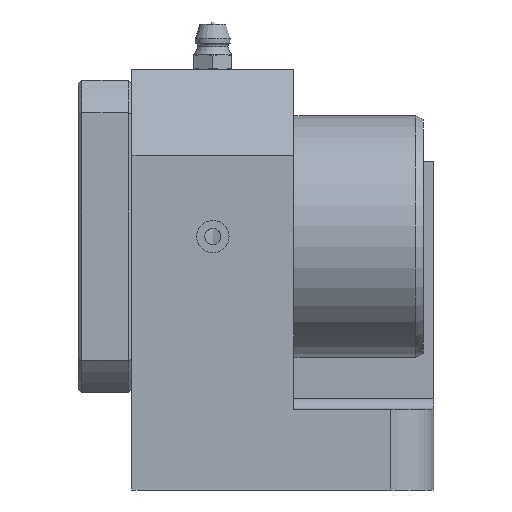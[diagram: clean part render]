
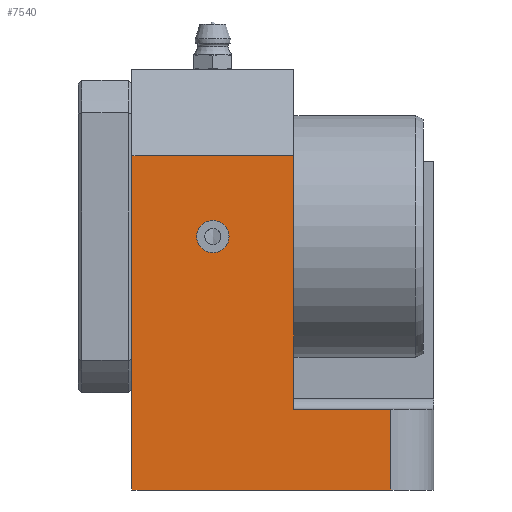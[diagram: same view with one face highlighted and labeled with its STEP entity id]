
A CAD part, front view. The second image highlights one B-rep face of the part: STEP entity #7540.
In plain terms, the highlighted planar face has unit normal (0, -1, 0).
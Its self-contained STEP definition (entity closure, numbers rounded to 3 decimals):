
#7407=CARTESIAN_POINT('',(48.,-90.0,15.));
#7408=VERTEX_POINT('',#7407);
#7416=CARTESIAN_POINT('',(48.,-90.0,0.0));
#7417=VERTEX_POINT('',#7416);
#7418=CARTESIAN_POINT('',(48.,-90.0,15.));
#7419=DIRECTION('',(0.0,0.0,-1.0));
#7420=VECTOR('',#7419,15.);
#7421=LINE('',#7418,#7420);
#7422=EDGE_CURVE('',#7408,#7417,#7421,.T.);
#7443=CARTESIAN_POINT('',(0.0,-90.0,0.0));
#7444=VERTEX_POINT('',#7443);
#7445=CARTESIAN_POINT('',(0.0,-90.0,0.0));
#7446=DIRECTION('',(1.0,0.0,0.0));
#7447=VECTOR('',#7446,48.);
#7448=LINE('',#7445,#7447);
#7449=EDGE_CURVE('',#7444,#7417,#7448,.T.);
#7490=CARTESIAN_POINT('',(56.,-90.0,0.0));
#7491=DIRECTION('',(0.0,-1.0,0.0));
#7492=DIRECTION('',(0.0,0.0,-1.0));
#7493=AXIS2_PLACEMENT_3D('',#7490,#7491,#7492);
#7494=PLANE('',#7493);
#7495=ORIENTED_EDGE('',*,*,#7422,.F.);
#7496=CARTESIAN_POINT('',(30.0,-90.0,15.));
#7497=VERTEX_POINT('',#7496);
#7498=CARTESIAN_POINT('',(48.,-90.0,15.));
#7499=DIRECTION('',(-1.0,0.0,0.0));
#7500=VECTOR('',#7499,18.);
#7501=LINE('',#7498,#7500);
#7502=EDGE_CURVE('',#7408,#7497,#7501,.T.);
#7503=ORIENTED_EDGE('',*,*,#7502,.T.);
#7504=CARTESIAN_POINT('',(30.0,-90.0,62.));
#7505=VERTEX_POINT('',#7504);
#7506=CARTESIAN_POINT('',(30.0,-90.0,15.));
#7507=DIRECTION('',(0.0,0.0,1.0));
#7508=VECTOR('',#7507,47.);
#7509=LINE('',#7506,#7508);
#7510=EDGE_CURVE('',#7497,#7505,#7509,.T.);
#7511=ORIENTED_EDGE('',*,*,#7510,.T.);
#7512=CARTESIAN_POINT('',(0.0,-90.0,62.));
#7513=VERTEX_POINT('',#7512);
#7514=CARTESIAN_POINT('',(0.0,-90.0,62.));
#7515=DIRECTION('',(1.0,0.0,0.0));
#7516=VECTOR('',#7515,30.0);
#7517=LINE('',#7514,#7516);
#7518=EDGE_CURVE('',#7513,#7505,#7517,.T.);
#7519=ORIENTED_EDGE('',*,*,#7518,.F.);
#7520=CARTESIAN_POINT('',(0.0,-90.0,0.0));
#7521=DIRECTION('',(0.0,0.0,1.0));
#7522=VECTOR('',#7521,62.);
#7523=LINE('',#7520,#7522);
#7524=EDGE_CURVE('',#7444,#7513,#7523,.T.);
#7525=ORIENTED_EDGE('',*,*,#7524,.F.);
#7526=ORIENTED_EDGE('',*,*,#7449,.T.);
#7527=EDGE_LOOP('',(#7495,#7503,#7511,#7519,#7525,#7526));
#7528=FACE_OUTER_BOUND('',#7527,.T.);
#7529=CARTESIAN_POINT('',(18.0,-90.0,47.0));
#7530=VERTEX_POINT('',#7529);
#7531=CARTESIAN_POINT('',(15.0,-90.0,47.0));
#7532=DIRECTION('',(0.0,1.0,0.0));
#7533=DIRECTION('',(1.0,0.0,0.0));
#7534=AXIS2_PLACEMENT_3D('',#7531,#7532,#7533);
#7535=CIRCLE('',#7534,3.);
#7536=EDGE_CURVE('',#7530,#7530,#7535,.T.);
#7537=ORIENTED_EDGE('',*,*,#7536,.T.);
#7538=EDGE_LOOP('',(#7537));
#7539=FACE_BOUND('',#7538,.T.);
#7540=ADVANCED_FACE('',(#7528,#7539),#7494,.T.);
